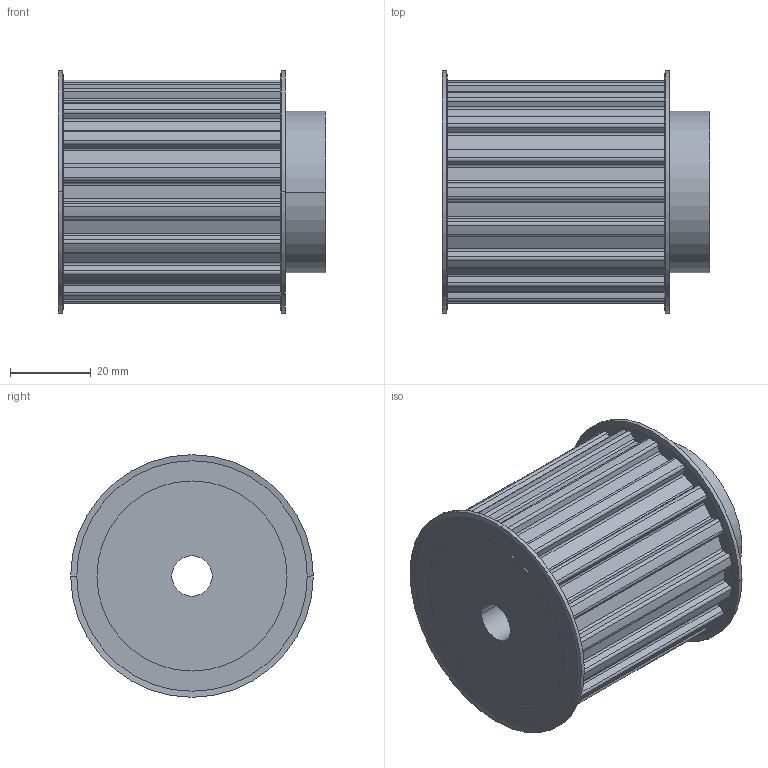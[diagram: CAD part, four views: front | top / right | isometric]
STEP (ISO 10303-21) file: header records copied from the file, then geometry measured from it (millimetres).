
FILE_DESCRIPTION( ( '' ), '1' );
FILE_NAME( 'C:/Users/Stangenbergd/Documents/CAD_Step/1/16451800.stp', '2021-10-19T09:01:06', ( '' ), ( '' ), ' ', ' ', ' ' );
FILE_SCHEMA( ( 'CONFIG_CONTROL_DESIGN' ) );
Length unit declared in the file: millimetre
Products named in the file (1): 1
Bounding box: 66.06 x 60 x 60 mm (x, y, z)
Volume: 130374.4 mm3; surface area: 22615.7 mm2
Topology: 1 solids, 1 shells, 171 faces, 484 edges, 320 vertices
Faces by surface type: cylinder 102, plane 61, cone 8
Entity records: 5674 total; most frequent: DIRECTION 1040, CARTESIAN_POINT 976, ORIENTED_EDGE 968, EDGE_CURVE 484, AXIS2_PLACEMENT_3D 384, VERTEX_POINT 320, LINE 272, VECTOR 272
